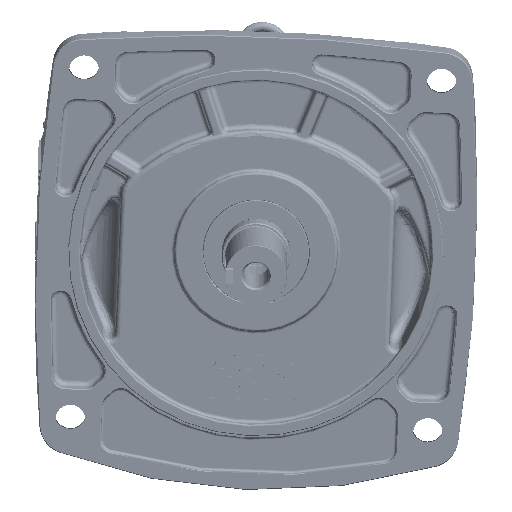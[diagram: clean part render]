
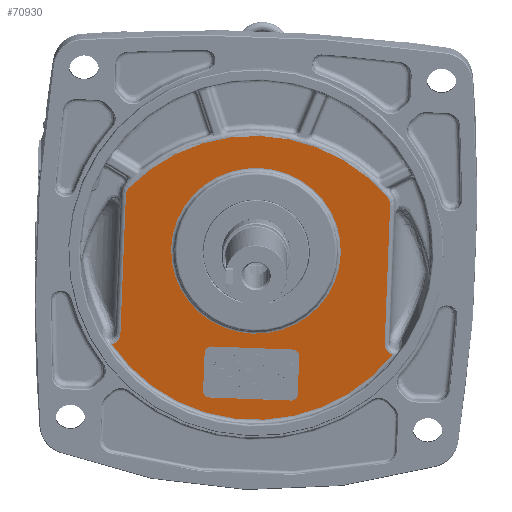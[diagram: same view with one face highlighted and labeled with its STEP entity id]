
A CAD part, top view. The second image highlights one B-rep face of the part: STEP entity #70930.
In plain terms, the highlighted planar face has unit normal (0, -0.216, 0.977).
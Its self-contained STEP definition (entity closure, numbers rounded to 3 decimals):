
#2983=LINE('',#157315,#6085);
#2984=LINE('',#157320,#6086);
#3046=LINE('',#160108,#6148);
#3047=LINE('',#160112,#6149);
#3048=LINE('',#160116,#6150);
#3049=LINE('',#160120,#6151);
#6085=VECTOR('',#93009,10.);
#6086=VECTOR('',#93014,10.);
#6148=VECTOR('',#93596,10.);
#6149=VECTOR('',#93599,10.);
#6150=VECTOR('',#93602,10.);
#6151=VECTOR('',#93605,10.);
#8453=FACE_BOUND('',#17536,.T.);
#8454=FACE_BOUND('',#17537,.T.);
#9361=PLANE('',#77817);
#13146=FACE_OUTER_BOUND('',#17535,.T.);
#17535=EDGE_LOOP('',(#58709,#58710,#58711,#58712,#58713,#58714,#58715,#58716));
#17536=EDGE_LOOP('',(#58717,#58718,#58719,#58720,#58721,#58722,#58723,#58724));
#17537=EDGE_LOOP('',(#58725));
#21783=CIRCLE('',#77597,52.);
#21848=CIRCLE('',#77707,106.076);
#21925=CIRCLE('',#77818,105.999);
#21926=CIRCLE('',#77819,4.);
#21927=CIRCLE('',#77820,4.);
#21928=CIRCLE('',#77821,4.);
#21929=CIRCLE('',#77822,4.);
#24792=B_SPLINE_CURVE_WITH_KNOTS('',3,(#157305,#157306,#157307,#157308,
#157309,#157310,#157311),.UNSPECIFIED.,.F.,.F.,(4,1,1,1,4),(0.,
0.257,0.513,0.77,0.896),
 .UNSPECIFIED.);
#24793=B_SPLINE_CURVE_WITH_KNOTS('',3,(#157349,#157350,#157351,#157352,
#157353),.UNSPECIFIED.,.F.,.F.,(4,1,4),(0.,0.217,0.507),
 .UNSPECIFIED.);
#24794=B_SPLINE_CURVE_WITH_KNOTS('',3,(#157381,#157382,#157383,#157384,
#157385),.UNSPECIFIED.,.F.,.F.,(4,1,4),(0.,0.29,0.507),
 .UNSPECIFIED.);
#24910=B_SPLINE_CURVE_WITH_KNOTS('',3,(#160100,#160101,#160102,#160103,
#160104,#160105),.UNSPECIFIED.,.F.,.F.,(4,1,1,4),(0.901,1.027,
1.54,1.797),.UNSPECIFIED.);
#30322=VERTEX_POINT('',#157291);
#30323=VERTEX_POINT('',#157303);
#30324=VERTEX_POINT('',#157313);
#30325=VERTEX_POINT('',#157317);
#30326=VERTEX_POINT('',#157319);
#30327=VERTEX_POINT('',#157347);
#30328=VERTEX_POINT('',#157379);
#30363=VERTEX_POINT('',#157871);
#30525=VERTEX_POINT('',#160098);
#30526=VERTEX_POINT('',#160106);
#30527=VERTEX_POINT('',#160107);
#30528=VERTEX_POINT('',#160109);
#30529=VERTEX_POINT('',#160111);
#30530=VERTEX_POINT('',#160113);
#30531=VERTEX_POINT('',#160115);
#30532=VERTEX_POINT('',#160117);
#30533=VERTEX_POINT('',#160119);
#39765=EDGE_CURVE('',#30323,#30322,#24792,.T.);
#39767=EDGE_CURVE('',#30324,#30323,#2983,.T.);
#39769=EDGE_CURVE('',#30325,#30326,#2984,.T.);
#39772=EDGE_CURVE('',#30327,#30324,#24793,.T.);
#39774=EDGE_CURVE('',#30326,#30328,#24794,.T.);
#39829=EDGE_CURVE('',#30363,#30363,#21783,.T.);
#39985=EDGE_CURVE('',#30328,#30327,#21848,.T.);
#40117=EDGE_CURVE('',#30322,#30525,#21925,.T.);
#40118=EDGE_CURVE('',#30525,#30325,#24910,.T.);
#40119=EDGE_CURVE('',#30526,#30527,#3046,.T.);
#40120=EDGE_CURVE('',#30528,#30527,#21926,.T.);
#40121=EDGE_CURVE('',#30528,#30529,#3047,.T.);
#40122=EDGE_CURVE('',#30530,#30529,#21927,.T.);
#40123=EDGE_CURVE('',#30530,#30531,#3048,.T.);
#40124=EDGE_CURVE('',#30532,#30531,#21928,.T.);
#40125=EDGE_CURVE('',#30532,#30533,#3049,.T.);
#40126=EDGE_CURVE('',#30526,#30533,#21929,.T.);
#58709=ORIENTED_EDGE('',*,*,#40117,.F.);
#58710=ORIENTED_EDGE('',*,*,#39765,.F.);
#58711=ORIENTED_EDGE('',*,*,#39767,.F.);
#58712=ORIENTED_EDGE('',*,*,#39772,.F.);
#58713=ORIENTED_EDGE('',*,*,#39985,.F.);
#58714=ORIENTED_EDGE('',*,*,#39774,.F.);
#58715=ORIENTED_EDGE('',*,*,#39769,.F.);
#58716=ORIENTED_EDGE('',*,*,#40118,.F.);
#58717=ORIENTED_EDGE('',*,*,#40119,.T.);
#58718=ORIENTED_EDGE('',*,*,#40120,.F.);
#58719=ORIENTED_EDGE('',*,*,#40121,.T.);
#58720=ORIENTED_EDGE('',*,*,#40122,.F.);
#58721=ORIENTED_EDGE('',*,*,#40123,.T.);
#58722=ORIENTED_EDGE('',*,*,#40124,.F.);
#58723=ORIENTED_EDGE('',*,*,#40125,.T.);
#58724=ORIENTED_EDGE('',*,*,#40126,.F.);
#58725=ORIENTED_EDGE('',*,*,#39829,.F.);
#70930=ADVANCED_FACE('',(#13146,#8453,#8454),#9361,.F.);
#77597=AXIS2_PLACEMENT_3D('',#157873,#93108,#93109);
#77707=AXIS2_PLACEMENT_3D('',#158754,#93360,#93361);
#77817=AXIS2_PLACEMENT_3D('',#160097,#93592,#93593);
#77818=AXIS2_PLACEMENT_3D('',#160099,#93594,#93595);
#77819=AXIS2_PLACEMENT_3D('',#160110,#93597,#93598);
#77820=AXIS2_PLACEMENT_3D('',#160114,#93600,#93601);
#77821=AXIS2_PLACEMENT_3D('',#160118,#93603,#93604);
#77822=AXIS2_PLACEMENT_3D('',#160121,#93606,#93607);
#93009=DIRECTION('',(-0.038,-0.976,-0.215));
#93014=DIRECTION('',(0.038,0.976,0.215));
#93108=DIRECTION('center_axis',(0.,-0.216,
0.976));
#93109=DIRECTION('ref_axis',(-0.999,0.037,0.008));
#93360=DIRECTION('center_axis',(0.,0.216,
-0.976));
#93361=DIRECTION('ref_axis',(0.038,0.976,0.215));
#93592=DIRECTION('center_axis',(0.,0.216,
-0.976));
#93593=DIRECTION('ref_axis',(-0.999,0.037,0.008));
#93594=DIRECTION('center_axis',(0.,0.216,
-0.976));
#93595=DIRECTION('ref_axis',(-0.038,-0.976,-0.215));
#93596=DIRECTION('',(0.038,0.976,0.215));
#93597=DIRECTION('center_axis',(0.,-0.216,
0.976));
#93598=DIRECTION('ref_axis',(-0.679,0.716,0.158));
#93599=DIRECTION('',(0.999,-0.037,-0.008));
#93600=DIRECTION('center_axis',(0.,-0.216,
0.976));
#93601=DIRECTION('ref_axis',(0.734,0.663,0.147));
#93602=DIRECTION('',(-0.038,-0.976,-0.215));
#93603=DIRECTION('center_axis',(0.,-0.216,
0.976));
#93604=DIRECTION('ref_axis',(0.679,-0.716,-0.158));
#93605=DIRECTION('',(-0.999,0.037,0.008));
#93606=DIRECTION('center_axis',(0.,-0.216,
0.976));
#93607=DIRECTION('ref_axis',(-0.734,-0.663,-0.147));
#157291=CARTESIAN_POINT('',(103.209,-25.549,85.881));
#157303=CARTESIAN_POINT('',(98.437,-18.799,87.372));
#157305=CARTESIAN_POINT('Ctrl Pts',(98.437,-18.799,87.372));
#157306=CARTESIAN_POINT('Ctrl Pts',(98.404,-19.633,
87.188));
#157307=CARTESIAN_POINT('Ctrl Pts',(98.656,-21.333,
86.812));
#157308=CARTESIAN_POINT('Ctrl Pts',(99.948,-23.559,86.321));
#157309=CARTESIAN_POINT('Ctrl Pts',(101.628,-24.918,86.02));
#157310=CARTESIAN_POINT('Ctrl Pts',(102.809,-25.418,85.91));
#157311=CARTESIAN_POINT('Ctrl Pts',(103.21,-25.547,
85.882));
#157313=CARTESIAN_POINT('',(101.778,66.16,106.136));
#157315=CARTESIAN_POINT('',(97.408,-44.954,81.595));
#157317=CARTESIAN_POINT('',(-63.444,-12.727,88.713));
#157319=CARTESIAN_POINT('',(-60.102,72.231,107.476));
#157320=CARTESIAN_POINT('',(-64.473,-38.883,82.936));
#157347=CARTESIAN_POINT('',(100.185,70.773,107.154));
#157349=CARTESIAN_POINT('Ctrl Pts',(100.185,70.773,107.154));
#157350=CARTESIAN_POINT('Ctrl Pts',(100.646,70.227,107.034));
#157351=CARTESIAN_POINT('Ctrl Pts',(101.524,68.777,106.714));
#157352=CARTESIAN_POINT('Ctrl Pts',(101.815,67.102,106.344));
#157353=CARTESIAN_POINT('Ctrl Pts',(101.778,66.16,106.136));
#157379=CARTESIAN_POINT('',(-58.151,76.711,108.466));
#157381=CARTESIAN_POINT('Ctrl Pts',(-60.102,72.231,
107.476));
#157382=CARTESIAN_POINT('Ctrl Pts',(-60.065,73.173,
107.685));
#157383=CARTESIAN_POINT('Ctrl Pts',(-59.643,74.822,
108.049));
#157384=CARTESIAN_POINT('Ctrl Pts',(-58.653,76.202,
108.353));
#157385=CARTESIAN_POINT('Ctrl Pts',(-58.151,76.711,
108.466));
#157871=CARTESIAN_POINT('',(71.576,36.144,99.506));
#157873=CARTESIAN_POINT('Origin',(19.615,38.093,99.937));
#158754=CARTESIAN_POINT('Origin',(18.31,4.917,92.61));
#160097=CARTESIAN_POINT('Origin',(18.31,4.917,92.61));
#160098=CARTESIAN_POINT('',(-68.732,-19.101,87.305));
#160099=CARTESIAN_POINT('Origin',(19.615,38.093,99.937));
#160100=CARTESIAN_POINT('Ctrl Pts',(-68.733,-19.1,
87.306));
#160101=CARTESIAN_POINT('Ctrl Pts',(-68.323,-19.001,
87.327));
#160102=CARTESIAN_POINT('Ctrl Pts',(-66.29,-18.316,
87.479));
#160103=CARTESIAN_POINT('Ctrl Pts',(-64.043,-16.075,87.974));
#160104=CARTESIAN_POINT('Ctrl Pts',(-63.477,-13.562,88.529));
#160105=CARTESIAN_POINT('Ctrl Pts',(-63.444,-12.727,
88.713));
#160106=CARTESIAN_POINT('',(-12.78,-47.662,80.997));
#160107=CARTESIAN_POINT('',(-11.859,-24.244,86.169));
#160108=CARTESIAN_POINT('',(-11.187,-7.169,89.941));
#160109=CARTESIAN_POINT('',(-7.708,-20.491,86.998));
#160110=CARTESIAN_POINT('Origin',(-7.861,-24.394,86.136));
#160111=CARTESIAN_POINT('',(42.255,-22.365,86.584));
#160112=CARTESIAN_POINT('',(31.763,-21.971,86.671));
#160113=CARTESIAN_POINT('',(46.099,-26.418,85.689));
#160114=CARTESIAN_POINT('Origin',(42.102,-26.268,85.722));
#160115=CARTESIAN_POINT('',(45.178,-49.836,80.517));
#160116=CARTESIAN_POINT('',(46.156,-24.954,86.013));
#160117=CARTESIAN_POINT('',(41.027,-53.589,79.688));
#160118=CARTESIAN_POINT('Origin',(41.181,-49.686,80.55));
#160119=CARTESIAN_POINT('',(-8.936,-51.715,80.102));
#160120=CARTESIAN_POINT('',(1.556,-52.109,80.015));
#160121=CARTESIAN_POINT('Origin',(-8.783,-47.812,80.964));
